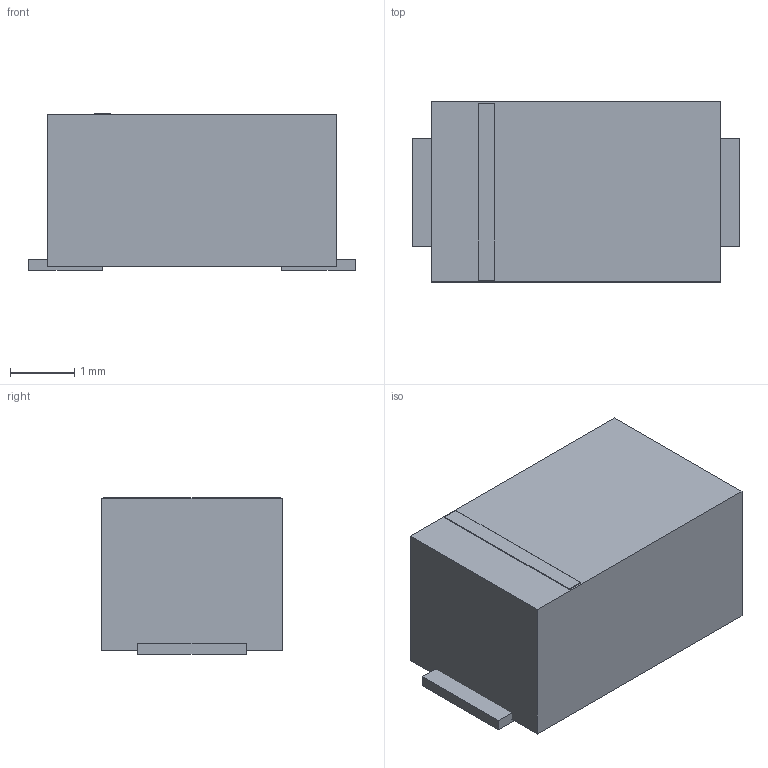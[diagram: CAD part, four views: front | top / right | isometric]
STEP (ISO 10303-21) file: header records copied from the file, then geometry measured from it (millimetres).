
FILE_DESCRIPTION(('FreeCAD Model'),'2;1');
FILE_NAME('Open CASCADE Shape Model','2026-09-23T12:07:02',('FreeCAD'),( 'FreeCAD'),'Open CASCADE STEP processor 7.8','FreeCAD','Unknown');
FILE_SCHEMA(('AUTOMOTIVE_DESIGN { 1 0 10303 214 1 1 1 1 }'));
Length unit declared in the file: millimetre
Products named in the file (1): Open CASCADE STEP translator 7.8 36
Bounding box: 5.08 x 2.8 x 2.44 mm (x, y, z)
Volume: 30.5 mm3; surface area: 71 mm2
Topology: 4 solids, 4 shells, 24 faces, 48 edges, 32 vertices
Faces by surface type: plane 24
Entity records: 616 total; most frequent: CARTESIAN_POINT 105, DIRECTION 98, ORIENTED_EDGE 96, EDGE_CURVE 48, LINE 48, VECTOR 48, VERTEX_POINT 32, AXIS2_PLACEMENT_3D 25
